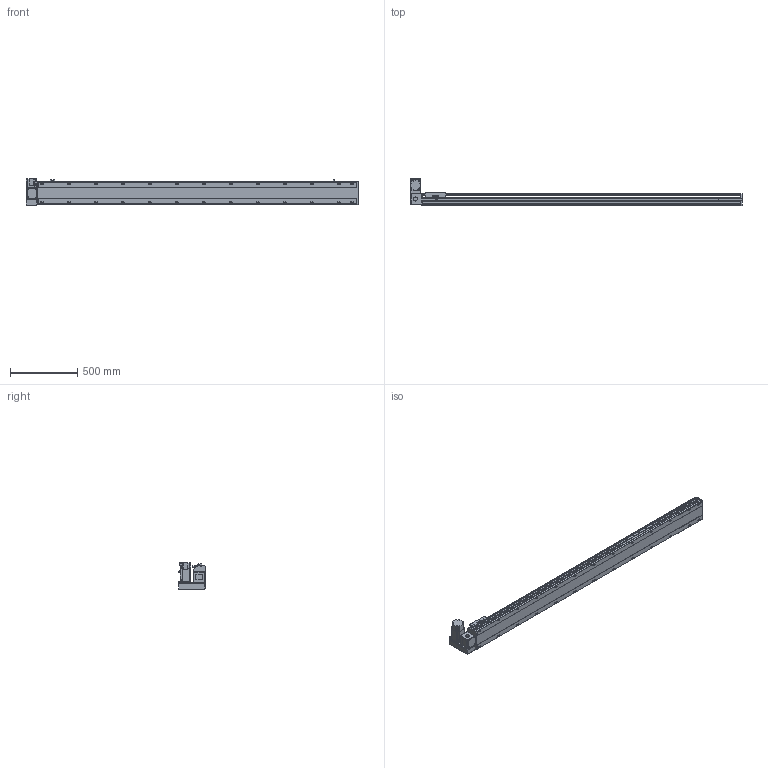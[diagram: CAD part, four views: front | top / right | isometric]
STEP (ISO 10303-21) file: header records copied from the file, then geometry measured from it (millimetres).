
FILE_DESCRIPTION(/* description */ ('STEP AP214'),/* implementation_level */ '2;1');
FILE_NAME(/* name */ 'PBS170-P40-S2100-LU-T75-C1-N(0)',/* time_stamp */ '2022-06-07T10:16:55+02:00',/* author */ ('License CC BY-ND 4.0'),/* organization */ ('CADENAS'),/* preprocessor_version */ 'ST-DEVELOPER v18.102',/* originating_system */ 'PARTsolutions',/* authorisation */ ' ');
FILE_SCHEMA (('AUTOMOTIVE_DESIGN {1 0 10303 214 3 1 1}'));
Length unit declared in the file: millimetre
Products named in the file (7): PBS170-P40-S2100-LU-T75-C1-N(0); PBS170_sensor; PBS170_plant; PBS170_sliser; T75-p1; PBS170T-LU_motors; PBS170-S2100()_body
Assembly tree (8 placements, depth 2):
  PBS170-P40-S2100-LU-T75-C1-N(0)
    PBS170_sensor  x3
    PBS170_plant
    PBS170_sliser
    T75-p1
    PBS170T-LU_motors
    PBS170-S2100()_body
Bounding box: 2463 x 206 x 197.3 mm (x, y, z)
Volume: 18827172.3 mm3; surface area: 2386226.8 mm2
Topology: 8 solids, 8 shells, 1162 faces, 3075 edges, 2004 vertices
Faces by surface type: plane 717, cylinder 379, cone 56, sphere 8, torus 2
Full cylindrical faces by diameter (mm): 3.242 x4, 4 x2, 4.4 x4, 4.5 x6, 4.917 x4, 6 x9, 6.647 x34, 7 x2, 7.5 x4, 8 x8, 8.5 x26, 10 x4, 10.5 x26, 11 x2, 30 x2, 40 x1, 70 x1
Entity records: 33408 total; most frequent: CARTESIAN_POINT 6273, DIRECTION 5650, ORIENTED_EDGE 5328, EDGE_CURVE 2664, AXIS2_PLACEMENT_3D 1987, VERTEX_POINT 1850, LINE 1676, VECTOR 1676
